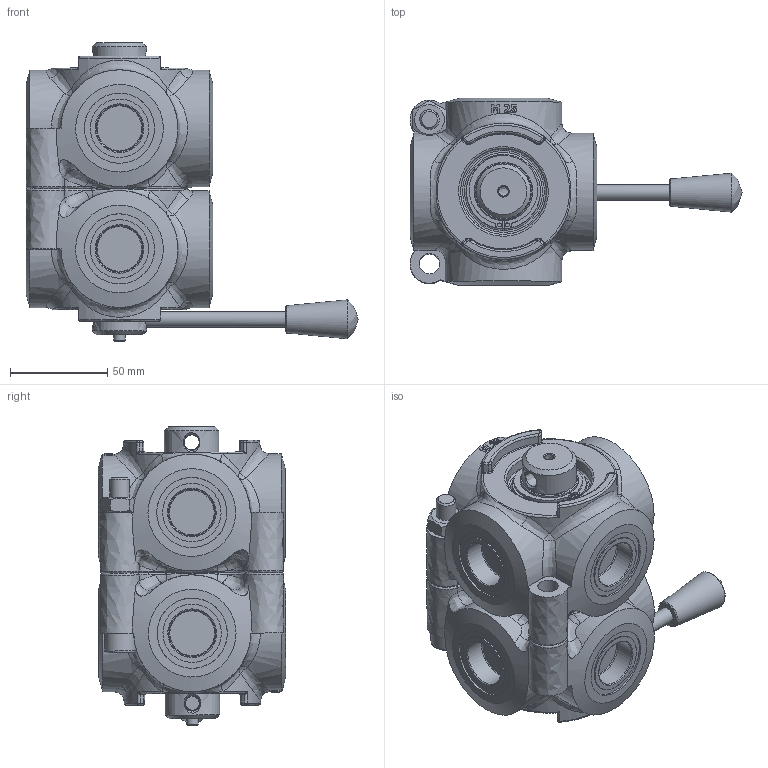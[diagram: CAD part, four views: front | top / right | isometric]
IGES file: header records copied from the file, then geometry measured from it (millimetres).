
Global section: file name: No Iges File Name specified; native system: Autodesk Inventor 2013; preprocessor: AutoDesk Inventor Iges Exporter R2013; author: christian.scardovi; date: 20240830.083111; units: millimetre
Bounding box: 170.5 x 96.34 x 153.3 mm (x, y, z)
Volume: 866339.7 mm3; surface area: 84985.2 mm2
Topology: 1 solids, 1 shells, 538 faces, 1283 edges, 778 vertices
Faces by surface type: bspline 538
